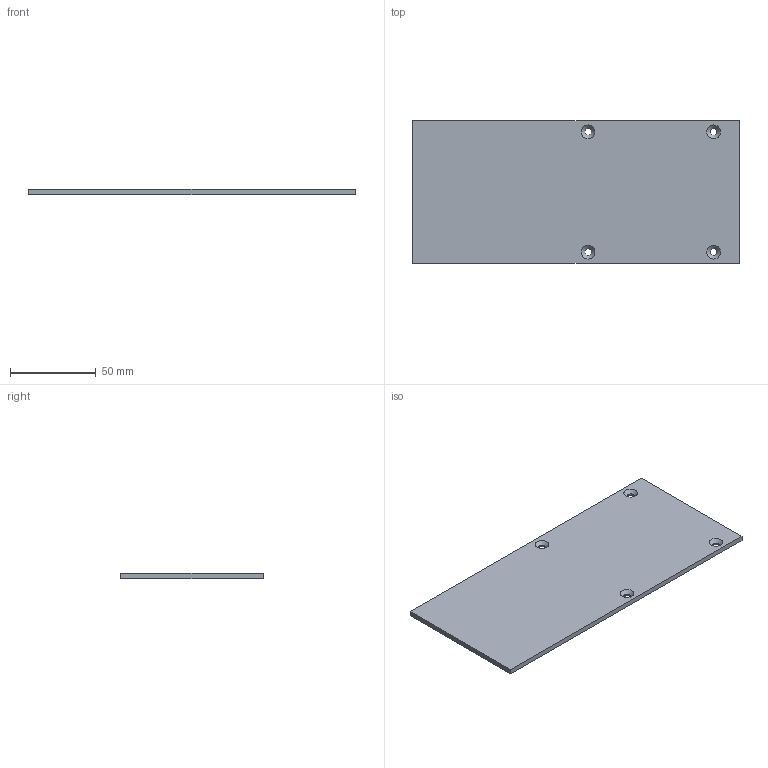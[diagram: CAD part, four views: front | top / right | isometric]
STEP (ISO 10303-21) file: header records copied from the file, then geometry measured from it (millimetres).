
FILE_DESCRIPTION(('HOOPS Exchange Step'),'2;1');
FILE_NAME('/Users/tim/Library/Containers/com.shapr3d.shapr/Data/tmp/export/temp_export','2024-03-22T11:56:28-04:00',('tim'),('Shapr3D Limited'),'HOOPS Exchange 2023.2','Shapr3D','Authorized');
FILE_SCHEMA( ('AUTOMOTIVE_DESIGN { 1 0 10303 214 1 1 1 1 }') );
Length unit declared in the file: millimetre
Products named in the file (1): Master Backboard
Bounding box: 190 x 83 x 3 mm (x, y, z)
Volume: 47025.2 mm3; surface area: 33190.2 mm2
Topology: 1 solids, 1 shells, 14 faces, 32 edges, 20 vertices
Faces by surface type: plane 6, cylinder 4, cone 4
Full cylindrical faces by diameter (mm): 4 x4
Entity records: 436 total; most frequent: DIRECTION 74, CARTESIAN_POINT 67, ORIENTED_EDGE 64, EDGE_CURVE 32, AXIS2_PLACEMENT_3D 27, EDGE_LOOP 22, FACE_BOUND 22, VERTEX_POINT 20
